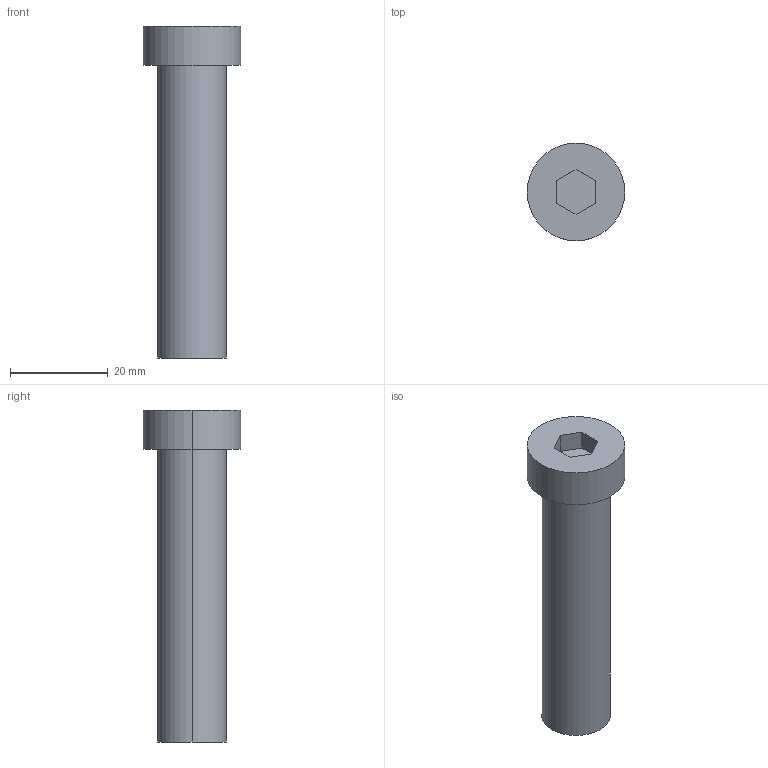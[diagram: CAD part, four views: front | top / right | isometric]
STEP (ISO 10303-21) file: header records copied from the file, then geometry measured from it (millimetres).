
FILE_DESCRIPTION (( 'STEP AP214' ), '1' );
FILE_NAME ('BruyRubio_TGH__14_x_60_-_M-10.STEP', '2019-12-22T23:30:20', ( '' ), ( '' ), 'SwSTEP 2.0', 'SolidWorks 2017', '' );
FILE_SCHEMA (( 'AUTOMOTIVE_DESIGN' ));
Length unit declared in the file: millimetre
Products named in the file (1): BruyRubio_TGH__14_x_60_-_M-10
Bounding box: 20 x 20 x 68 mm (x, y, z)
Volume: 10233 mm3; surface area: 5612.9 mm2
Topology: 2 solids, 2 shells, 27 faces, 58 edges, 37 vertices
Faces by surface type: plane 13, cylinder 12, cone 2
Entity records: 1070 total; most frequent: DIRECTION 136, CARTESIAN_POINT 121, ORIENTED_EDGE 112, EDGE_CURVE 56, AXIS2_PLACEMENT_3D 52, VERTEX_POINT 37, EDGE_LOOP 33, LINE 32
